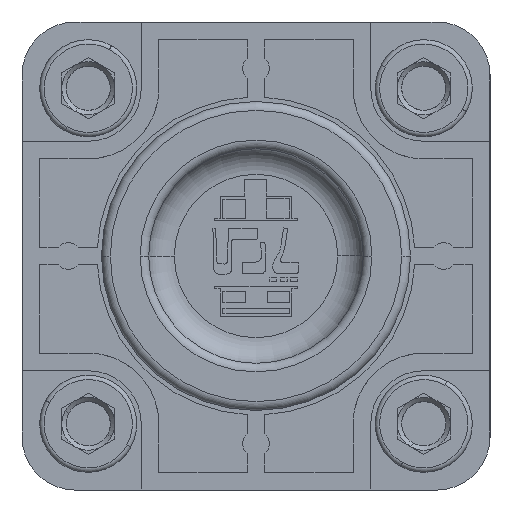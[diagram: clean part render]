
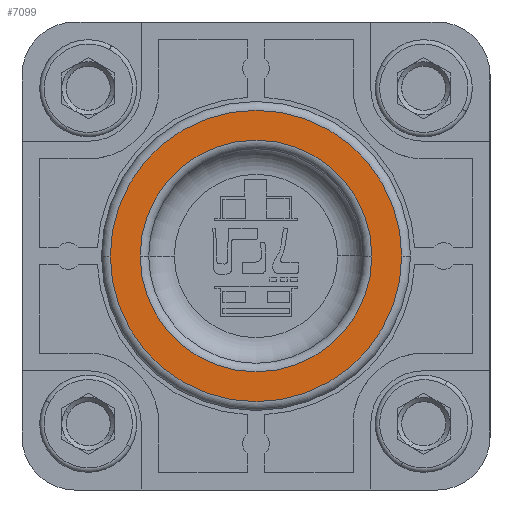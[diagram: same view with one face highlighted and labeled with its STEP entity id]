
A CAD part, left-side view. The second image highlights one B-rep face of the part: STEP entity #7099.
In plain terms, the highlighted planar face has unit normal (-1, 0, 0) as drawn and (1, 0, 0) by its records, which use the part's own axes.
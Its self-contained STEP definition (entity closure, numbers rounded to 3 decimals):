
#6787=CARTESIAN_POINT('Vertex',(127.,16.5,0.)) ;
#6794=CARTESIAN_POINT('Vertex',(127.,-16.5,0.)) ;
#6797=CARTESIAN_POINT('Axis2P3D Location',(127.,0.,0.)) ;
#6814=CARTESIAN_POINT('Axis2P3D Location',(127.,0.,0.)) ;
#7072=CARTESIAN_POINT('Axis2P3D Location',(127.,0.,0.)) ;
#7081=CARTESIAN_POINT('Axis2P3D Location',(127.,0.,0.)) ;
#7085=CARTESIAN_POINT('Vertex',(127.,-13.123,0.)) ;
#7087=CARTESIAN_POINT('Vertex',(127.,13.123,0.)) ;
#7090=CARTESIAN_POINT('Axis2P3D Location',(127.,0.,0.)) ;
#6798=DIRECTION('Axis2P3D Direction',(1.,-0.,0.)) ;
#6815=DIRECTION('Axis2P3D Direction',(1.,0.,-0.)) ;
#7073=DIRECTION('Axis2P3D Direction',(1.,0.,-0.)) ;
#7074=DIRECTION('Axis2P3D XDirection',(0.,1.,0.)) ;
#7082=DIRECTION('Axis2P3D Direction',(1.,0.,-0.)) ;
#7091=DIRECTION('Axis2P3D Direction',(1.,0.,-0.)) ;
#6799=AXIS2_PLACEMENT_3D('Circle Axis2P3D',#6797,#6798,$) ;
#6816=AXIS2_PLACEMENT_3D('Circle Axis2P3D',#6814,#6815,$) ;
#7075=AXIS2_PLACEMENT_3D('Plane Axis2P3D',#7072,#7073,#7074) ;
#7083=AXIS2_PLACEMENT_3D('Circle Axis2P3D',#7081,#7082,$) ;
#7092=AXIS2_PLACEMENT_3D('Circle Axis2P3D',#7090,#7091,$) ;
#7078=ORIENTED_EDGE('',*,*,#6818,.T.) ;
#7079=ORIENTED_EDGE('',*,*,#6801,.T.) ;
#7096=ORIENTED_EDGE('',*,*,#7089,.T.) ;
#7097=ORIENTED_EDGE('',*,*,#7094,.T.) ;
#7098=FACE_BOUND('',#7095,.T.) ;
#7099=ADVANCED_FACE('PartBody',(#7080,#7098),#7076,.T.) ;
#6800=CIRCLE('generated circle',#6799,16.5) ;
#6817=CIRCLE('generated circle',#6816,16.5) ;
#7084=CIRCLE('generated circle',#7083,13.123) ;
#7093=CIRCLE('generated circle',#7092,13.123) ;
#6801=EDGE_CURVE('',#6788,#6795,#6800,.T.) ;
#6818=EDGE_CURVE('',#6795,#6788,#6817,.T.) ;
#7089=EDGE_CURVE('',#7086,#7088,#7084,.F.) ;
#7094=EDGE_CURVE('',#7088,#7086,#7093,.F.) ;
#7077=EDGE_LOOP('',(#7078,#7079)) ;
#7095=EDGE_LOOP('',(#7096,#7097)) ;
#7080=FACE_OUTER_BOUND('',#7077,.T.) ;
#7076=PLANE('',#7075) ;
#6788=VERTEX_POINT('',#6787) ;
#6795=VERTEX_POINT('',#6794) ;
#7086=VERTEX_POINT('',#7085) ;
#7088=VERTEX_POINT('',#7087) ;
